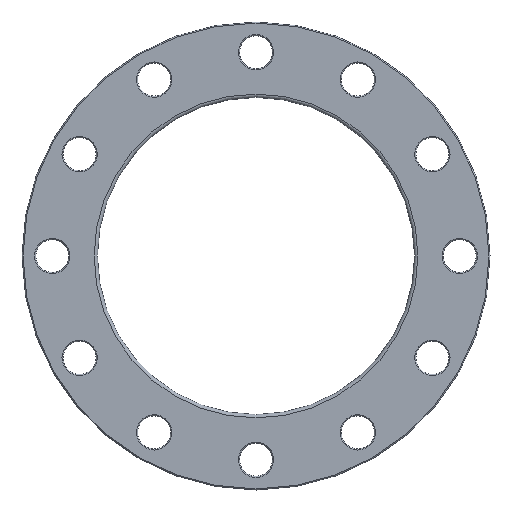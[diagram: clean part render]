
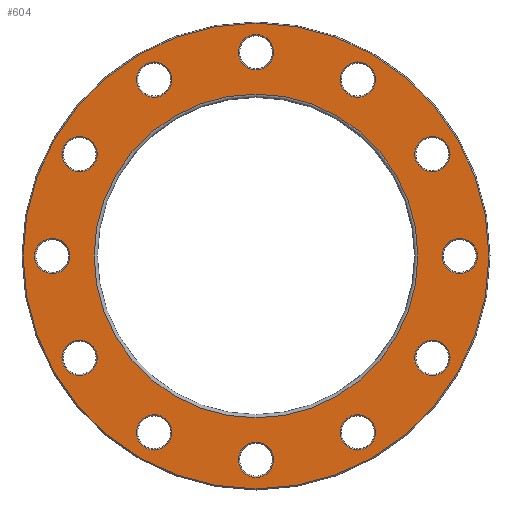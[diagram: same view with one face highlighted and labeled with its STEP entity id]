
A CAD part, front view. The second image highlights one B-rep face of the part: STEP entity #604.
In plain terms, the highlighted planar face has unit normal (0, -1, 0).
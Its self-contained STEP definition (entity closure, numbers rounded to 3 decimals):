
#23=PLANE('',#712);
#134=ORIENTED_EDGE('',*,*,#213,.T.);
#135=ORIENTED_EDGE('',*,*,#214,.T.);
#136=ORIENTED_EDGE('',*,*,#164,.T.);
#137=ORIENTED_EDGE('',*,*,#168,.T.);
#138=ORIENTED_EDGE('',*,*,#172,.T.);
#139=ORIENTED_EDGE('',*,*,#176,.T.);
#140=ORIENTED_EDGE('',*,*,#180,.T.);
#141=ORIENTED_EDGE('',*,*,#184,.T.);
#142=ORIENTED_EDGE('',*,*,#188,.T.);
#143=ORIENTED_EDGE('',*,*,#192,.T.);
#144=ORIENTED_EDGE('',*,*,#196,.T.);
#145=ORIENTED_EDGE('',*,*,#200,.T.);
#146=ORIENTED_EDGE('',*,*,#204,.T.);
#147=ORIENTED_EDGE('',*,*,#215,.T.);
#164=EDGE_CURVE('',#220,#220,#276,.T.);
#168=EDGE_CURVE('',#224,#224,#280,.T.);
#172=EDGE_CURVE('',#228,#228,#284,.T.);
#176=EDGE_CURVE('',#232,#232,#288,.T.);
#180=EDGE_CURVE('',#236,#236,#292,.T.);
#184=EDGE_CURVE('',#240,#240,#296,.T.);
#188=EDGE_CURVE('',#244,#244,#300,.T.);
#192=EDGE_CURVE('',#248,#248,#304,.T.);
#196=EDGE_CURVE('',#252,#252,#308,.T.);
#200=EDGE_CURVE('',#256,#256,#312,.T.);
#204=EDGE_CURVE('',#260,#260,#316,.T.);
#213=EDGE_CURVE('',#269,#269,#325,.F.);
#214=EDGE_CURVE('',#270,#270,#326,.T.);
#215=EDGE_CURVE('',#271,#271,#327,.T.);
#220=VERTEX_POINT('',#935);
#224=VERTEX_POINT('',#946);
#228=VERTEX_POINT('',#957);
#232=VERTEX_POINT('',#968);
#236=VERTEX_POINT('',#979);
#240=VERTEX_POINT('',#990);
#244=VERTEX_POINT('',#1001);
#248=VERTEX_POINT('',#1012);
#252=VERTEX_POINT('',#1023);
#256=VERTEX_POINT('',#1034);
#260=VERTEX_POINT('',#1045);
#269=VERTEX_POINT('',#1068);
#270=VERTEX_POINT('',#1070);
#271=VERTEX_POINT('',#1072);
#276=CIRCLE('',#629,16.);
#280=CIRCLE('',#636,16.);
#284=CIRCLE('',#643,16.);
#288=CIRCLE('',#650,16.);
#292=CIRCLE('',#657,16.);
#296=CIRCLE('',#664,16.);
#300=CIRCLE('',#671,16.);
#304=CIRCLE('',#678,16.);
#308=CIRCLE('',#685,16.);
#312=CIRCLE('',#692,16.);
#316=CIRCLE('',#699,16.);
#325=CIRCLE('',#713,211.5);
#326=CIRCLE('',#714,147.);
#327=CIRCLE('',#715,16.);
#414=EDGE_LOOP('',(#134));
#415=EDGE_LOOP('',(#135));
#416=EDGE_LOOP('',(#136));
#417=EDGE_LOOP('',(#137));
#418=EDGE_LOOP('',(#138));
#419=EDGE_LOOP('',(#139));
#420=EDGE_LOOP('',(#140));
#421=EDGE_LOOP('',(#141));
#422=EDGE_LOOP('',(#142));
#423=EDGE_LOOP('',(#143));
#424=EDGE_LOOP('',(#144));
#425=EDGE_LOOP('',(#145));
#426=EDGE_LOOP('',(#146));
#427=EDGE_LOOP('',(#147));
#526=FACE_BOUND('',#414,.T.);
#527=FACE_BOUND('',#415,.T.);
#528=FACE_BOUND('',#416,.T.);
#529=FACE_BOUND('',#417,.T.);
#530=FACE_BOUND('',#418,.T.);
#531=FACE_BOUND('',#419,.T.);
#532=FACE_BOUND('',#420,.T.);
#533=FACE_BOUND('',#421,.T.);
#534=FACE_BOUND('',#422,.T.);
#535=FACE_BOUND('',#423,.T.);
#536=FACE_BOUND('',#424,.T.);
#537=FACE_BOUND('',#425,.T.);
#538=FACE_BOUND('',#426,.T.);
#539=FACE_BOUND('',#427,.T.);
#604=ADVANCED_FACE('',(#526,#527,#528,#529,#530,#531,#532,#533,#534,#535,
#536,#537,#538,#539),#23,.F.);
#629=AXIS2_PLACEMENT_3D('',#934,#735,#736);
#636=AXIS2_PLACEMENT_3D('',#945,#749,#750);
#643=AXIS2_PLACEMENT_3D('',#956,#763,#764);
#650=AXIS2_PLACEMENT_3D('',#967,#777,#778);
#657=AXIS2_PLACEMENT_3D('',#978,#791,#792);
#664=AXIS2_PLACEMENT_3D('',#989,#805,#806);
#671=AXIS2_PLACEMENT_3D('',#1000,#819,#820);
#678=AXIS2_PLACEMENT_3D('',#1011,#833,#834);
#685=AXIS2_PLACEMENT_3D('',#1022,#847,#848);
#692=AXIS2_PLACEMENT_3D('',#1033,#861,#862);
#699=AXIS2_PLACEMENT_3D('',#1044,#875,#876);
#712=AXIS2_PLACEMENT_3D('',#1066,#901,#902);
#713=AXIS2_PLACEMENT_3D('',#1067,#903,#904);
#714=AXIS2_PLACEMENT_3D('',#1069,#905,#906);
#715=AXIS2_PLACEMENT_3D('',#1071,#907,#908);
#735=DIRECTION('',(0.,1.,0.));
#736=DIRECTION('',(0.866,0.,0.5));
#749=DIRECTION('',(0.,1.,0.));
#750=DIRECTION('',(0.5,0.,0.866));
#763=DIRECTION('',(0.,1.,0.));
#764=DIRECTION('',(0.,0.,1.));
#777=DIRECTION('',(0.,1.,0.));
#778=DIRECTION('',(-0.5,0.,0.866));
#791=DIRECTION('',(0.,1.,0.));
#792=DIRECTION('',(-0.866,0.,0.5));
#805=DIRECTION('',(0.,1.,0.));
#806=DIRECTION('',(-1.,0.,0.));
#819=DIRECTION('',(0.,1.,0.));
#820=DIRECTION('',(-0.866,0.,-0.5));
#833=DIRECTION('',(0.,1.,0.));
#834=DIRECTION('',(-0.5,0.,-0.866));
#847=DIRECTION('',(0.,1.,0.));
#848=DIRECTION('',(0.,0.,-1.));
#861=DIRECTION('',(0.,1.,0.));
#862=DIRECTION('',(0.5,0.,-0.866));
#875=DIRECTION('',(0.,1.,0.));
#876=DIRECTION('',(0.866,0.,-0.5));
#901=DIRECTION('',(0.,1.,0.));
#902=DIRECTION('',(0.,0.,1.));
#903=DIRECTION('',(0.,1.,0.));
#904=DIRECTION('',(0.,0.,1.));
#905=DIRECTION('',(0.,1.,0.));
#906=DIRECTION('',(0.,0.,1.));
#907=DIRECTION('',(0.,1.,0.));
#908=DIRECTION('',(1.,0.,0.));
#934=CARTESIAN_POINT('',(-92.5,0.,160.215));
#935=CARTESIAN_POINT('',(-78.644,0.,168.215));
#945=CARTESIAN_POINT('',(-160.215,0.,92.5));
#946=CARTESIAN_POINT('',(-152.215,0.,106.356));
#956=CARTESIAN_POINT('',(-185.,0.,0.));
#957=CARTESIAN_POINT('',(-185.,0.,16.));
#967=CARTESIAN_POINT('',(-160.215,0.,-92.5));
#968=CARTESIAN_POINT('',(-168.215,0.,-78.644));
#978=CARTESIAN_POINT('',(-92.5,0.,-160.215));
#979=CARTESIAN_POINT('',(-106.356,0.,-152.215));
#989=CARTESIAN_POINT('',(0.,0.,-185.));
#990=CARTESIAN_POINT('',(-16.,0.,-185.));
#1000=CARTESIAN_POINT('',(92.5,0.,-160.215));
#1001=CARTESIAN_POINT('',(78.644,0.,-168.215));
#1011=CARTESIAN_POINT('',(160.215,0.,-92.5));
#1012=CARTESIAN_POINT('',(152.215,0.,-106.356));
#1022=CARTESIAN_POINT('',(185.,0.,0.));
#1023=CARTESIAN_POINT('',(185.,0.,-16.));
#1033=CARTESIAN_POINT('',(160.215,0.,92.5));
#1034=CARTESIAN_POINT('',(168.215,0.,78.644));
#1044=CARTESIAN_POINT('',(92.5,0.,160.215));
#1045=CARTESIAN_POINT('',(106.356,0.,152.215));
#1066=CARTESIAN_POINT('',(0.,0.,0.));
#1067=CARTESIAN_POINT('',(0.,0.,0.));
#1068=CARTESIAN_POINT('',(0.,0.,211.5));
#1069=CARTESIAN_POINT('',(0.,0.,0.));
#1070=CARTESIAN_POINT('',(0.,0.,147.));
#1071=CARTESIAN_POINT('',(0.,0.,185.));
#1072=CARTESIAN_POINT('',(16.,0.,185.));
